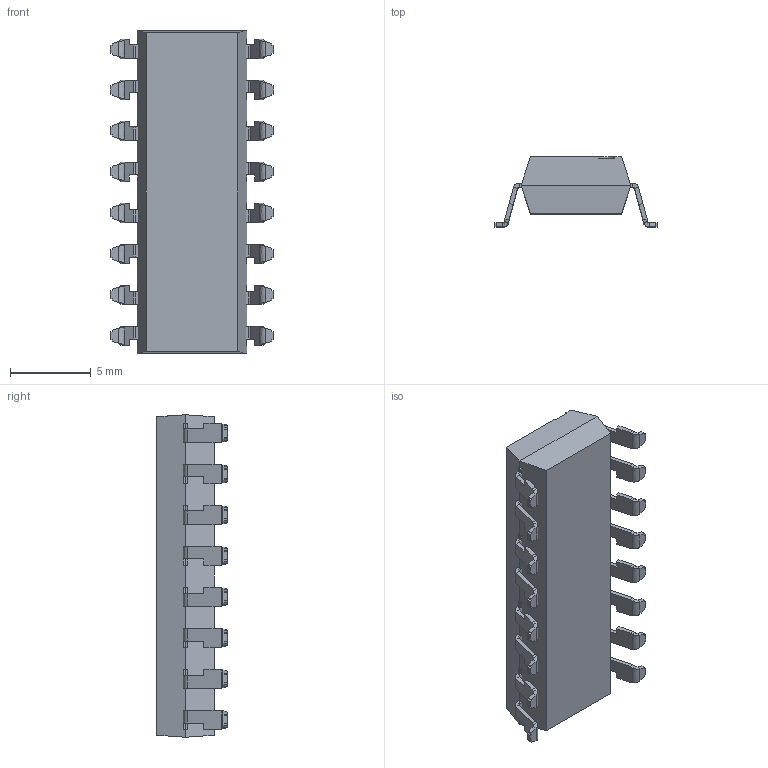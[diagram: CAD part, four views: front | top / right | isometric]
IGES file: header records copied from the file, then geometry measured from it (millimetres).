
Start section: SolidWorks IGES file using analytic representation for surfaces
Global section: file name: C:\Users\David\Dropbox\Jose Espina\Component Packages\DIP16\DIP16-OP7.IGS; native system: SolidWorks 2015; preprocessor: SolidWorks 2015; author: David; date: 151212.125646; units: millimetre
Bounding box: 10.16 x 4.36 x 20 mm (x, y, z)
Volume: 510.3 mm3; surface area: 1291.7 mm2
Topology: 4 solids, 4 shells, 498 faces, 1214 edges, 724 vertices
Faces by surface type: plane 401, revolution 65, bspline 32
